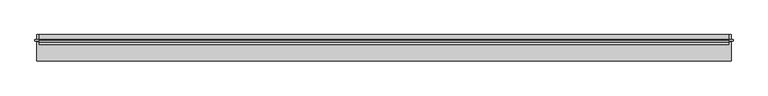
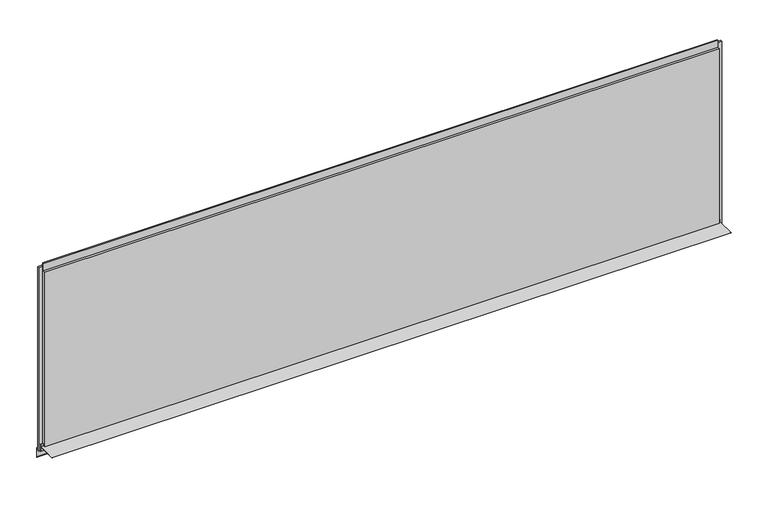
"""IFC4 building model written with IfcOpenShell, lengths in millimetres: plate geometry, Trimo_Qbiss Screen_Normal Panel-HORIZONTAL : HR - B."""

from ifc_helpers import new_model, si_unit, frame, origin, place, context, project, spatial, polyline, outline, extrude, source, transform, mapped, element, save


def plate_cf421904(model_context):
    return source(origin(), model_context, "Body", "SweptSolid", [
        extrude(outline(polyline([(66.7, 14.0835797), (67.5, 14.0835797), (67.5, -23.0), (100.0, -25.8433816), (100.0, -76.0), (87.1509533, -63.1509533), (87.7166388, -62.5852679), (99.2, -74.0686292), (99.2, -26.5764465), (66.7, -23.7330649), (66.7, 1.0), (-32.5, 1.0), (-32.5, 1.8), (66.7, 1.8), (66.7, 14.0835797)])), frame((-1732.5, 0.0, 0.0), z_axis=(1.0, 0.0, 0.0), x_axis=(0.0, 1.0, 0.0)), (0.0, 0.0, 1.0), 3465.0),
        extrude(outline(polyline([(-1723.0, 76.5978162), (-1723.0, 67.8978162), (-1742.0, 67.8978162), (-1742.0, 76.5978162), (-1723.0, 76.5978162)])), frame((0.0, 0.0, -20.0), z_axis=(0.0, 0.0, 1.0), x_axis=(1.0, 0.0, 0.0)), (0.0, 0.0, 1.0), 989.0),
        extrude(outline(polyline([(1723.0, 67.8978162), (1723.0, 76.5978162), (1742.0, 76.5978162), (1742.0, 67.8978162), (1723.0, 67.8978162)])), frame((0.0, 0.0, -20.0), z_axis=(0.0, 0.0, 1.0), x_axis=(1.0, 0.0, 0.0)), (0.0, 0.0, 1.0), 989.0),
        extrude(outline(polyline([(1720.0, 76.0), (1720.0, 71.0), (-1720.0, 71.0), (-1720.0, 76.0), (1720.0, 76.0)])), frame((0.0, 0.0, 948.0), z_axis=(0.0, 0.0, 1.0), x_axis=(1.0, 0.0, 0.0)), (0.0, 0.0, 1.0), 21.0),
        extrude(outline(polyline([(71.0, 947.0), (100.0, 947.0), (100.0, 0.0), (72.0, 0.0), (72.0, 15.5), (62.0, 15.5), (62.0, 7.0), (50.0, 7.0), (50.0, 947.0), (63.0, 947.0), (63.0, 984.5), (71.0, 984.5), (71.0, 947.0)])), frame((-1720.0, 0.0, 0.0), z_axis=(1.0, 0.0, 0.0), x_axis=(0.0, 1.0, 0.0)), (0.0, 0.0, 1.0), 3440.0),
    ])


if __name__ == "__main__":
    model = new_model("IFC4")
    model_context = context("Model", 3, world=origin())
    ifc_project = project(units=[si_unit("LENGTHUNIT", "METRE", prefix="MILLI")], contexts=[model_context])
    site = spatial("IfcSite", under=ifc_project)
    building = spatial("IfcBuilding", under=site)
    placement = place(None, origin())
    plate_shape = plate_cf421904(model_context)
    element("IfcPlate", 1, ObjectType="Trimo_Qbiss Screen_Normal Panel-HORIZONTAL : HR - B", at=placement, inside=building, context=model_context, shape_type="MappedRepresentation", body=[
        mapped(plate_shape, transform((0.0, 0.0, 0.0), x_axis=(1.0, 0.0, 0.0), y_axis=(0.0, 1.0, 0.0), z_axis=(0.0, 0.0, 1.0))),
    ])
    save(model, "model.ifc")
